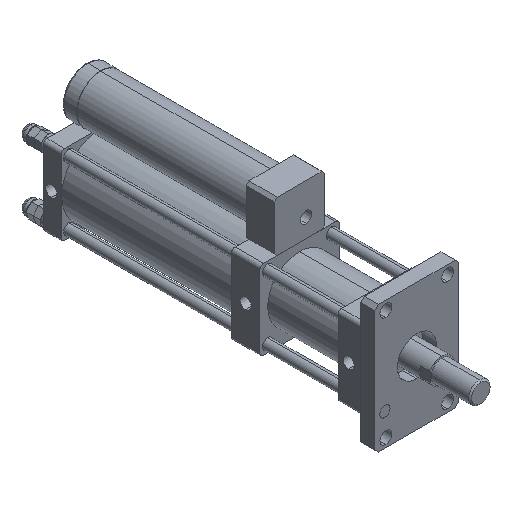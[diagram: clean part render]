
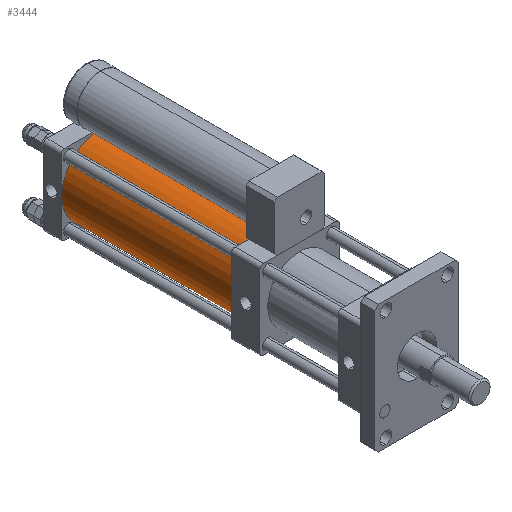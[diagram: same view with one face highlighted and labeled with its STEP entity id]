
A CAD part, isometric view. The second image highlights one B-rep face of the part: STEP entity #3444.
In plain terms, the highlighted cylindrical face has radius 55 mm (diameter 110 mm), a partial arc.
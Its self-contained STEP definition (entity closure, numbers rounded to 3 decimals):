
#372 = DIRECTION ( 'NONE',  ( 0., 1., 0. ) ) ;
#422 = CYLINDRICAL_SURFACE ( 'NONE', #3051, 55. ) ;
#470 = CARTESIAN_POINT ( 'NONE',  ( 0., 390., 0. ) ) ;
#585 = DIRECTION ( 'NONE',  ( 0., -1., 0. ) ) ;
#688 = VERTEX_POINT ( 'NONE', #5217 ) ;
#1244 = DIRECTION ( 'NONE',  ( 0., -1., 0. ) ) ;
#1436 = DIRECTION ( 'NONE',  ( 0., 0., -1. ) ) ;
#2055 = VECTOR ( 'NONE', #585, 1000. ) ;
#2095 = AXIS2_PLACEMENT_3D ( 'NONE', #5168, #11963, #6116 ) ;
#2840 = VERTEX_POINT ( 'NONE', #2875 ) ;
#2875 = CARTESIAN_POINT ( 'NONE',  ( 0., 390., -55. ) ) ;
#2953 = ORIENTED_EDGE ( 'NONE', *, *, #7651, .F. ) ;
#3051 = AXIS2_PLACEMENT_3D ( 'NONE', #470, #7268, #1436 ) ;
#3309 = EDGE_CURVE ( 'NONE', #10320, #688, #9824, .T. ) ;
#3415 = FACE_OUTER_BOUND ( 'NONE', #10877, .T. ) ;
#3444 = ADVANCED_FACE ( 'NONE', ( #3415 ), #422, .T. ) ;
#3545 = EDGE_CURVE ( 'NONE', #2840, #9224, #4351, .T. ) ;
#4090 = CARTESIAN_POINT ( 'NONE',  ( 0., 390., 55. ) ) ;
#4351 = LINE ( 'NONE', #11298, #2055 ) ;
#5143 = ORIENTED_EDGE ( 'NONE', *, *, #11900, .T. ) ;
#5168 = CARTESIAN_POINT ( 'NONE',  ( 0., 390., 0. ) ) ;
#5217 = CARTESIAN_POINT ( 'NONE',  ( 0., 150., 55. ) ) ;
#5977 = CARTESIAN_POINT ( 'NONE',  ( 0., 390., 55. ) ) ;
#5998 = ORIENTED_EDGE ( 'NONE', *, *, #3309, .F. ) ;
#6116 = DIRECTION ( 'NONE',  ( 0., 0., 1. ) ) ;
#6185 = CARTESIAN_POINT ( 'NONE',  ( 0., 150., 0. ) ) ;
#7177 = DIRECTION ( 'NONE',  ( 0., 0., 1. ) ) ;
#7244 = VECTOR ( 'NONE', #1244, 1000. ) ;
#7268 = DIRECTION ( 'NONE',  ( 0., -1., 0. ) ) ;
#7651 = EDGE_CURVE ( 'NONE', #2840, #10320, #11219, .T. ) ;
#8589 = AXIS2_PLACEMENT_3D ( 'NONE', #6185, #372, #7177 ) ;
#9224 = VERTEX_POINT ( 'NONE', #10977 ) ;
#9353 = CIRCLE ( 'NONE', #8589, 55. ) ;
#9824 = LINE ( 'NONE', #4090, #7244 ) ;
#10320 = VERTEX_POINT ( 'NONE', #5977 ) ;
#10877 = EDGE_LOOP ( 'NONE', ( #5998, #2953, #11795, #5143 ) ) ;
#10977 = CARTESIAN_POINT ( 'NONE',  ( 0., 150., -55. ) ) ;
#11219 = CIRCLE ( 'NONE', #2095, 55. ) ;
#11298 = CARTESIAN_POINT ( 'NONE',  ( 0., 390., -55. ) ) ;
#11795 = ORIENTED_EDGE ( 'NONE', *, *, #3545, .T. ) ;
#11900 = EDGE_CURVE ( 'NONE', #9224, #688, #9353, .T. ) ;
#11963 = DIRECTION ( 'NONE',  ( 0., 1., 0. ) ) ;
